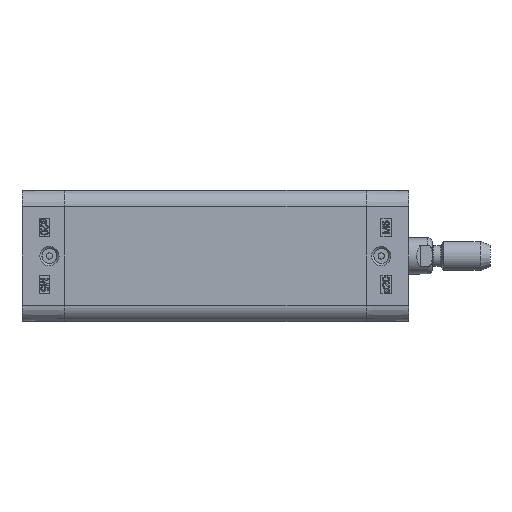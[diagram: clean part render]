
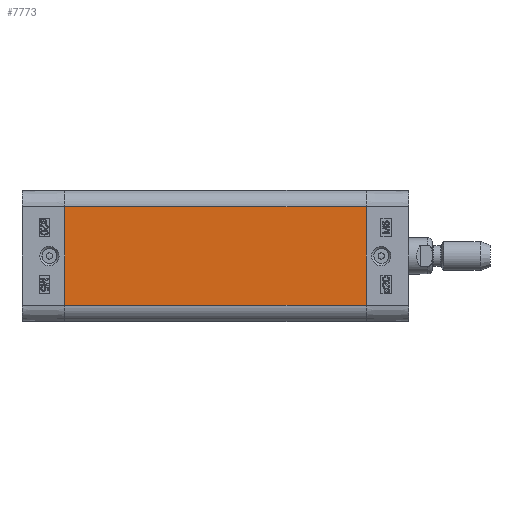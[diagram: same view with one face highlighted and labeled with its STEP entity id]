
A CAD part, left-side view. The second image highlights one B-rep face of the part: STEP entity #7773.
In plain terms, the highlighted planar face has unit normal (-1, 0, 0).
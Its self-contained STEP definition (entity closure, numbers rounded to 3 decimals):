
#6294=CARTESIAN_POINT('',(-18.15,-83.5,13.65));
#6295=VERTEX_POINT('',#6294);
#6302=CARTESIAN_POINT('',(-18.15,-83.5,-13.65));
#6303=VERTEX_POINT('',#6302);
#6304=CARTESIAN_POINT('',(-18.15,-83.5,-13.65));
#6305=DIRECTION('',(0.0,0.0,1.0));
#6306=VECTOR('',#6305,27.3);
#6307=LINE('',#6304,#6306);
#6308=EDGE_CURVE('',#6303,#6295,#6307,.T.);
#7731=CARTESIAN_POINT('',(-18.15,0.0,-13.65));
#7732=VERTEX_POINT('',#7731);
#7733=CARTESIAN_POINT('',(-18.15,0.0,-13.65));
#7734=DIRECTION('',(0.0,-1.0,0.0));
#7735=VECTOR('',#7734,83.5);
#7736=LINE('',#7733,#7735);
#7737=EDGE_CURVE('',#7732,#6303,#7736,.T.);
#7750=CARTESIAN_POINT('',(-18.15,0.0,-13.65));
#7751=DIRECTION('',(-1.0,0.0,0.0));
#7752=DIRECTION('',(0.0,0.0,1.0));
#7753=AXIS2_PLACEMENT_3D('',#7750,#7751,#7752);
#7754=PLANE('',#7753);
#7755=ORIENTED_EDGE('',*,*,#6308,.T.);
#7756=CARTESIAN_POINT('',(-18.15,0.0,13.65));
#7757=VERTEX_POINT('',#7756);
#7758=CARTESIAN_POINT('',(-18.15,0.0,13.65));
#7759=DIRECTION('',(0.0,-1.0,0.0));
#7760=VECTOR('',#7759,83.5);
#7761=LINE('',#7758,#7760);
#7762=EDGE_CURVE('',#7757,#6295,#7761,.T.);
#7763=ORIENTED_EDGE('',*,*,#7762,.F.);
#7764=CARTESIAN_POINT('',(-18.15,0.0,-13.65));
#7765=DIRECTION('',(0.0,0.0,1.0));
#7766=VECTOR('',#7765,27.3);
#7767=LINE('',#7764,#7766);
#7768=EDGE_CURVE('',#7732,#7757,#7767,.T.);
#7769=ORIENTED_EDGE('',*,*,#7768,.F.);
#7770=ORIENTED_EDGE('',*,*,#7737,.T.);
#7771=EDGE_LOOP('',(#7755,#7763,#7769,#7770));
#7772=FACE_OUTER_BOUND('',#7771,.T.);
#7773=ADVANCED_FACE('',(#7772),#7754,.T.);
